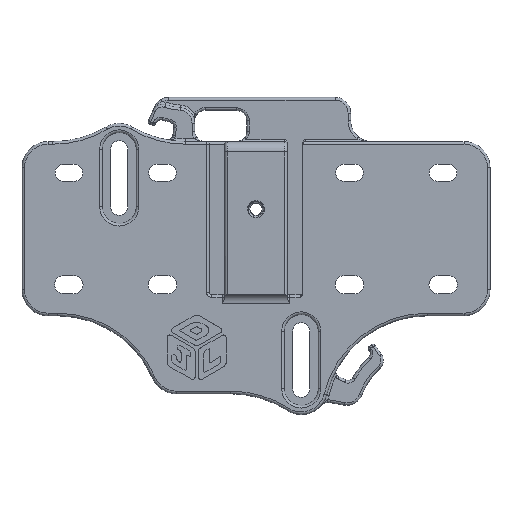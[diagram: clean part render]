
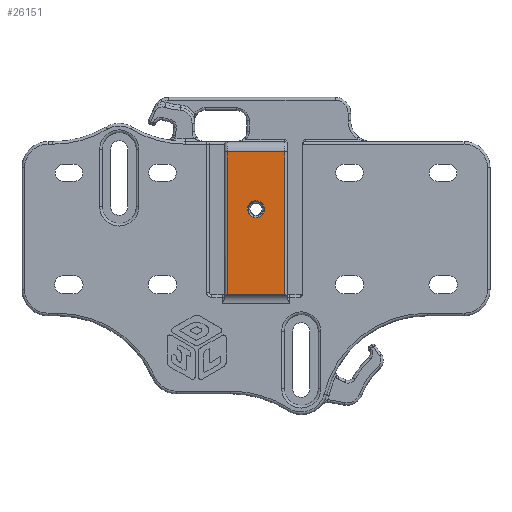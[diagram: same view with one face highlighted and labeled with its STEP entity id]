
A CAD part, top view. The second image highlights one B-rep face of the part: STEP entity #26151.
In plain terms, the highlighted planar face has unit normal (0, 0, 1).
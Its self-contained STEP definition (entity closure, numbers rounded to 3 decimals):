
#26121=AXIS2_PLACEMENT_3D('Circle Axis2P3D',#26119,#26120,$) ;
#26134=AXIS2_PLACEMENT_3D('Plane Axis2P3D',#26131,#26132,#26133) ;
#26144=AXIS2_PLACEMENT_3D('Circle Axis2P3D',#26142,#26143,$) ;
#19047=CARTESIAN_POINT('Vertex',(14.3,22.5,7.)) ;
#25798=CARTESIAN_POINT('Vertex',(3.3,22.5,7.)) ;
#25983=CARTESIAN_POINT('Line Origine',(3.3,7.511,7.)) ;
#25987=CARTESIAN_POINT('Vertex',(3.3,-5.,7.)) ;
#26010=CARTESIAN_POINT('Line Origine',(5.029,22.5,7.)) ;
#26027=CARTESIAN_POINT('Line Origine',(14.3,7.461,7.)) ;
#26031=CARTESIAN_POINT('Vertex',(14.3,-5.,7.)) ;
#26054=CARTESIAN_POINT('Line Origine',(8.8,-5.,7.)) ;
#26109=CARTESIAN_POINT('Vertex',(9.591,12.948,7.)) ;
#26116=CARTESIAN_POINT('Vertex',(8.009,10.052,7.)) ;
#26119=CARTESIAN_POINT('Axis2P3D Location',(8.8,11.5,7.)) ;
#26131=CARTESIAN_POINT('Axis2P3D Location',(0.,0.,7.)) ;
#26142=CARTESIAN_POINT('Axis2P3D Location',(8.8,11.5,7.)) ;
#25984=DIRECTION('Vector Direction',(0.,1.,0.)) ;
#26011=DIRECTION('Vector Direction',(1.,0.,0.)) ;
#26028=DIRECTION('Vector Direction',(0.,1.,0.)) ;
#26055=DIRECTION('Vector Direction',(1.,0.,0.)) ;
#26120=DIRECTION('Axis2P3D Direction',(0.,0.,-1.)) ;
#26132=DIRECTION('Axis2P3D Direction',(0.,0.,1.)) ;
#26133=DIRECTION('Axis2P3D XDirection',(1.,0.,0.)) ;
#26143=DIRECTION('Axis2P3D Direction',(0.,0.,1.)) ;
#25985=VECTOR('Line Direction',#25984,1.) ;
#26012=VECTOR('Line Direction',#26011,1.) ;
#26029=VECTOR('Line Direction',#26028,1.) ;
#26056=VECTOR('Line Direction',#26055,1.) ;
#26137=ORIENTED_EDGE('',*,*,#26058,.T.) ;
#26138=ORIENTED_EDGE('',*,*,#26033,.T.) ;
#26139=ORIENTED_EDGE('',*,*,#26014,.T.) ;
#26140=ORIENTED_EDGE('',*,*,#25989,.T.) ;
#26148=ORIENTED_EDGE('',*,*,#26123,.F.) ;
#26149=ORIENTED_EDGE('',*,*,#26146,.F.) ;
#26150=FACE_BOUND('',#26147,.T.) ;
#26151=ADVANCED_FACE('v5_Inserti',(#26141,#26150),#26135,.T.) ;
#26122=CIRCLE('generated circle',#26121,1.65) ;
#26145=CIRCLE('generated circle',#26144,1.65) ;
#25989=EDGE_CURVE('',#25799,#25988,#25986,.F.) ;
#26014=EDGE_CURVE('',#19048,#25799,#26013,.F.) ;
#26033=EDGE_CURVE('',#26032,#19048,#26030,.T.) ;
#26058=EDGE_CURVE('',#25988,#26032,#26057,.T.) ;
#26123=EDGE_CURVE('',#26117,#26110,#26122,.F.) ;
#26146=EDGE_CURVE('',#26110,#26117,#26145,.T.) ;
#26136=EDGE_LOOP('',(#26137,#26138,#26139,#26140)) ;
#26147=EDGE_LOOP('',(#26148,#26149)) ;
#26141=FACE_OUTER_BOUND('',#26136,.T.) ;
#25986=LINE('Line',#25983,#25985) ;
#26013=LINE('Line',#26010,#26012) ;
#26030=LINE('Line',#26027,#26029) ;
#26057=LINE('Line',#26054,#26056) ;
#26135=PLANE('',#26134) ;
#19048=VERTEX_POINT('',#19047) ;
#25799=VERTEX_POINT('',#25798) ;
#25988=VERTEX_POINT('',#25987) ;
#26032=VERTEX_POINT('',#26031) ;
#26110=VERTEX_POINT('',#26109) ;
#26117=VERTEX_POINT('',#26116) ;
